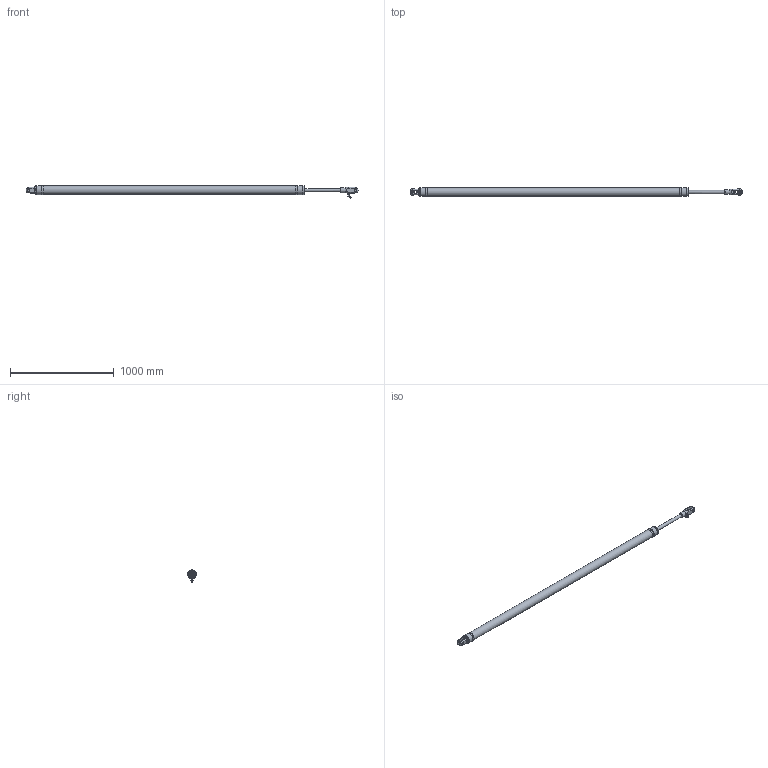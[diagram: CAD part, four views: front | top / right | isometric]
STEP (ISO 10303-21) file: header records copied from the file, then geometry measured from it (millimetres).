
FILE_DESCRIPTION(/* description */ (''),/* implementation_level */ '2;1');
FILE_NAME(/* name */ 'Q:\AA BRAND HYDRAULICS\HYDRAULICS FAMILY DIRECTORY\HYDRAULICS\CYLINDERS\VANGS\ALUMINIUM SINGLE ACTING - STAINLESS ON REQUEST (-0010 To -0150)\VSA-0030-S350-NP-71-L2800\VSA-0030-S350-NP-71-L2800 (Open).stp',/* time_stamp */ '2018-04-26T10:17:54+01:00',/* author */ ('Lorena'),/* organization */ (''),/* preprocessor_version */ 'ST-DEVELOPER v17',/* originating_system */ 'Autodesk Inventor 2018',/* authorisation */ '');
FILE_SCHEMA (('AUTOMOTIVE_DESIGN { 1 0 10303 214 3 1 1 }'));
Products named in the file (1): VSA-0030-S350-NP-71-L2800 (Open)
Bounding box: 3203.31 x 85.6 x 120.79 mm (x, y, z)
Volume: 14756363.6 mm3; surface area: 788181.6 mm2
Topology: 2 solids, 3 shells, 1616 faces, 4331 edges, 2867 vertices
Faces by surface type: plane 908, bspline 573, cylinder 73, cone 53, torus 5, sphere 4
Full cylindrical faces by diameter (mm): 5 x2, 5.1 x1, 5.9 x1, 8 x2, 9 x2, 11.157 x1, 11.5 x1, 11.8 x2, 12 x1, 12.157 x1, 12.5 x1, 12.77 x1, 13 x1, 13.157 x2, 14.5 x2, 16 x2, 18.3 x3, 19.05 x2, 22 x1, 23.875 x2, 32 x2, 36 x1, 48 x1, 82.6 x1, 83.6 x1, 85.6 x3
Entity records: 58377 total; most frequent: CARTESIAN_POINT 20081, ORIENTED_EDGE 8648, DIRECTION 5525, EDGE_CURVE 4324, VERTEX_POINT 2868, LINE 2775, VECTOR 2775, EDGE_LOOP 1781
